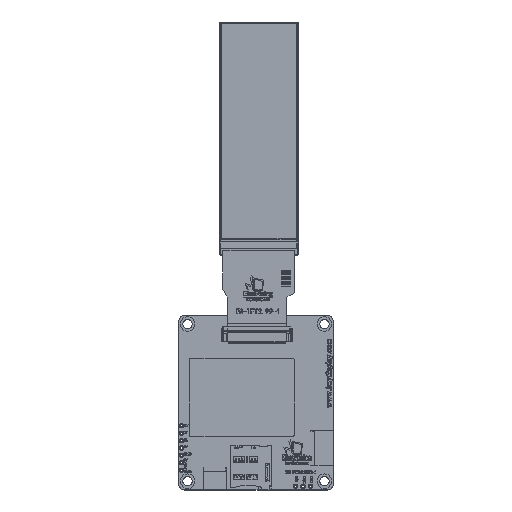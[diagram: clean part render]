
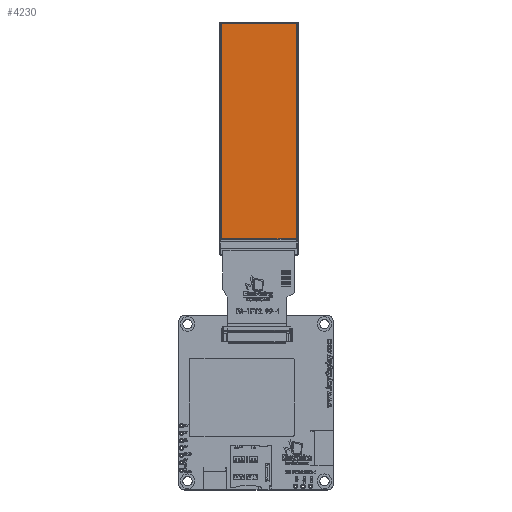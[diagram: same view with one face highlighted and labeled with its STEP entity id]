
A CAD part, top view. The second image highlights one B-rep face of the part: STEP entity #4230.
In plain terms, the highlighted planar face has unit normal (0, 0, 1) as drawn and (0, 0, -1) by its records, which use the part's own axes.
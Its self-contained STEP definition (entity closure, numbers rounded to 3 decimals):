
#1849 = PLANE ( 'NONE',  #222591 ) ;
#4230 = ADVANCED_FACE ( 'NONE', ( #122451 ), #1849, .T. ) ;
#5108 = CARTESIAN_POINT ( 'NONE',  ( 12.76, 0., -1.72 ) ) ;
#14002 = EDGE_CURVE ( 'NONE', #23742, #91340, #42563, .T. ) ;
#14851 = VECTOR ( 'NONE', #63266, 1000. ) ;
#23742 = VERTEX_POINT ( 'NONE', #24175 ) ;
#24175 = CARTESIAN_POINT ( 'NONE',  ( 12.76, 39.64, -1.72 ) ) ;
#27203 = DIRECTION ( 'NONE',  ( 0., 1., 0. ) ) ;
#33103 = CARTESIAN_POINT ( 'NONE',  ( -12.74, -34.36, -1.72 ) ) ;
#34059 = ORIENTED_EDGE ( 'NONE', *, *, #222099, .T. ) ;
#39233 = CARTESIAN_POINT ( 'NONE',  ( 12.76, -34.36, -1.72 ) ) ;
#42563 = LINE ( 'NONE', #82672, #14851 ) ;
#57996 = VECTOR ( 'NONE', #81483, 1000. ) ;
#62266 = ORIENTED_EDGE ( 'NONE', *, *, #14002, .F. ) ;
#63266 = DIRECTION ( 'NONE',  ( -1., 0., 0. ) ) ;
#65885 = LINE ( 'NONE', #185099, #57996 ) ;
#67931 = EDGE_LOOP ( 'NONE', ( #62266, #119889, #84312, #34059 ) ) ;
#76819 = DIRECTION ( 'NONE',  ( 1., 0., 0. ) ) ;
#81483 = DIRECTION ( 'NONE',  ( 0., 1., 0. ) ) ;
#82672 = CARTESIAN_POINT ( 'NONE',  ( 0., 39.64, -1.72 ) ) ;
#84312 = ORIENTED_EDGE ( 'NONE', *, *, #102190, .F. ) ;
#91340 = VERTEX_POINT ( 'NONE', #213894 ) ;
#95502 = EDGE_CURVE ( 'NONE', #231264, #23742, #123133, .T. ) ;
#102190 = EDGE_CURVE ( 'NONE', #143279, #231264, #175267, .T. ) ;
#107821 = VECTOR ( 'NONE', #27203, 1000. ) ;
#119889 = ORIENTED_EDGE ( 'NONE', *, *, #95502, .F. ) ;
#122451 = FACE_OUTER_BOUND ( 'NONE', #67931, .T. ) ;
#123133 = LINE ( 'NONE', #5108, #107821 ) ;
#124957 = DIRECTION ( 'NONE',  ( 0., 0., -1. ) ) ;
#140553 = DIRECTION ( 'NONE',  ( -1., 0., 0. ) ) ;
#143279 = VERTEX_POINT ( 'NONE', #33103 ) ;
#145629 = CARTESIAN_POINT ( 'NONE',  ( 0., 0., -1.72 ) ) ;
#157578 = VECTOR ( 'NONE', #76819, 1000. ) ;
#175267 = LINE ( 'NONE', #232316, #157578 ) ;
#185099 = CARTESIAN_POINT ( 'NONE',  ( -12.74, 39.69, -1.72 ) ) ;
#213894 = CARTESIAN_POINT ( 'NONE',  ( -12.74, 39.64, -1.72 ) ) ;
#222099 = EDGE_CURVE ( 'NONE', #143279, #91340, #65885, .T. ) ;
#222591 = AXIS2_PLACEMENT_3D ( 'NONE', #145629, #124957, #140553 ) ;
#231264 = VERTEX_POINT ( 'NONE', #39233 ) ;
#232316 = CARTESIAN_POINT ( 'NONE',  ( 0., -34.36, -1.72 ) ) ;
